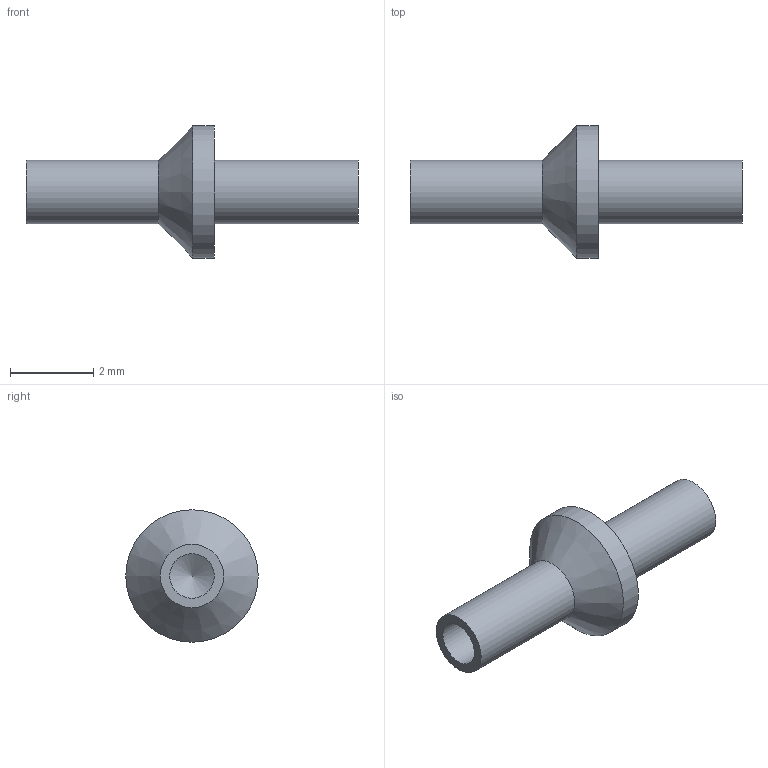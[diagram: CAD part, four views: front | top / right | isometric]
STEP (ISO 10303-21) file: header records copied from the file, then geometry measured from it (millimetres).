
FILE_DESCRIPTION(/* description */ (''),/* implementation_level */ '2;1');
FILE_NAME(/* name */ 'Z:\STEP folder\180-2751-03.ipt.stp',/* time_stamp */ '2016-12-07T16:16:59+00:00',/* author */ ('Paul Karlsons'),/* organization */ (''),/* preprocessor_version */ 'ST-DEVELOPER v15.2',/* originating_system */ 'Autodesk Inventor 2014',/* authorisation */ '');
FILE_SCHEMA (('AUTOMOTIVE_DESIGN { 1 0 10303 214 3 1 1 }'));
Length unit declared in the file: millimetre
Products named in the file (1): 180-2751-03
Bounding box: 7.96 x 3.17 x 3.17 mm (x, y, z)
Volume: 18.4 mm3; surface area: 60.6 mm2
Topology: 1 solids, 1 shells, 9 faces, 15 edges, 9 vertices
Faces by surface type: cylinder 4, plane 3, cone 2
Full cylindrical faces by diameter (mm): 1.067 x1, 1.524 x2, 3.175 x1
Entity records: 195 total; most frequent: DIRECTION 36, CARTESIAN_POINT 26, AXIS2_PLACEMENT_3D 18, EDGE_LOOP 16, ORIENTED_EDGE 16, FACE_BOUND 9, ADVANCED_FACE 9, CIRCLE 8
